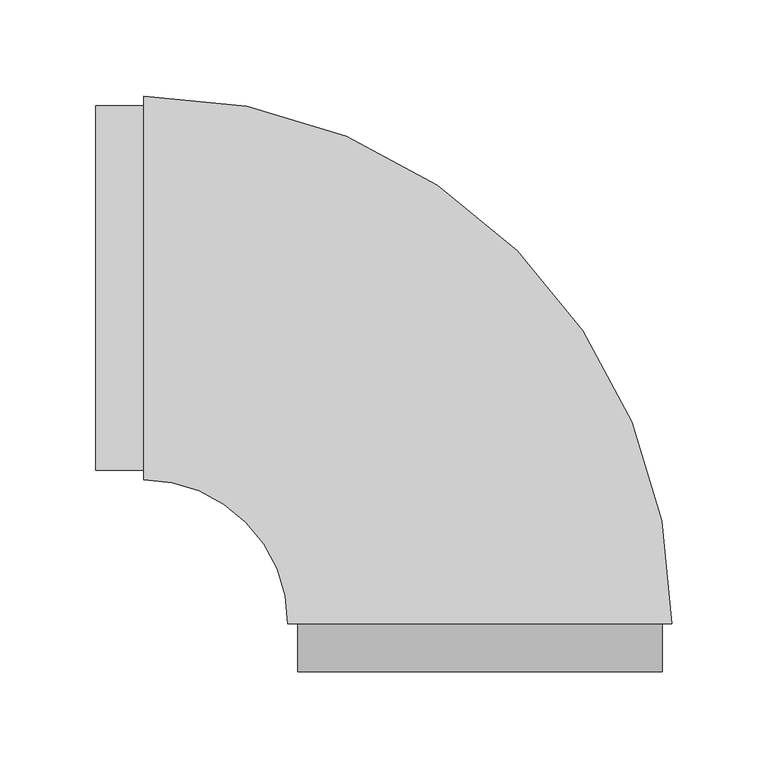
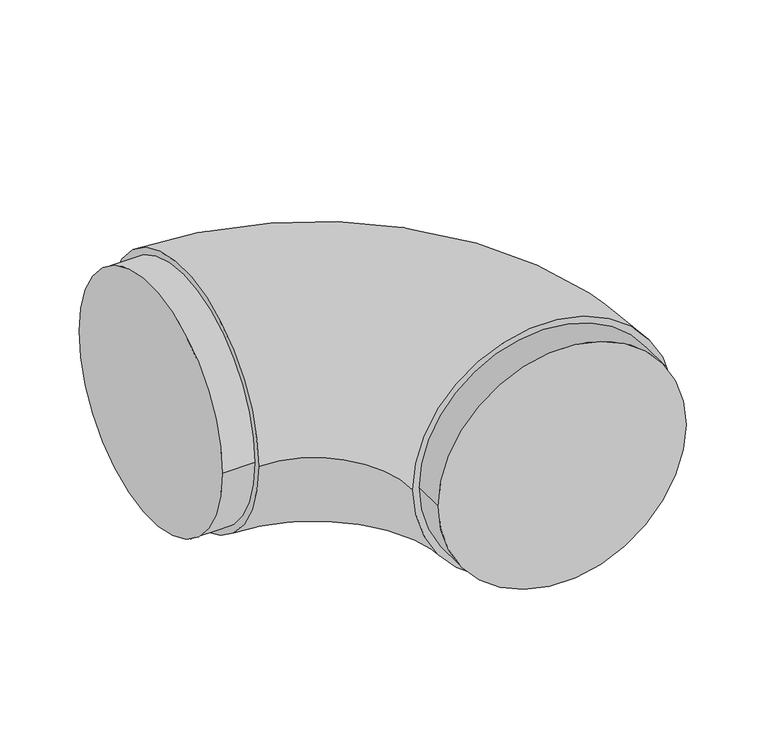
"""IFC4 building model written with IfcOpenShell, lengths in millimetres: pipe fitting geometry, Codo 90º Soldadura a Tope SDR 11 BluePipe : Estándar."""

from ifc_helpers import new_model, si_unit, point, frame, origin, origin_2d, place, context, project, spatial, circle_curve, ellipse_curve, trimmed, segment, composite_curve, outline, extrude, source, transform, mapped, element, save
from ifc_brep_helpers import plane_surface, revolved_surface, advanced_brep


def pipe_fitting_2358b14d(model_context):
    return source(origin(), model_context, "Body", "SolidModel", [
        extrude(outline(composite_curve([segment(trimmed(circle_curve(origin_2d(), 95.0), [point((0.0, -95.0))], [point((0.0, 95.0))], False, "CARTESIAN"), True, "CONTINUOUS"), segment(trimmed(circle_curve(origin_2d(), 95.0), [point((0.0, 95.0))], [point((0.0, -95.0))], False, "CARTESIAN"), True, "CONTINUOUS")], self_intersect=False)), frame((0.0, -200.0, 0.0), z_axis=(0.0, 1.0, 0.0), x_axis=(0.0, 0.0, 1.0)), (0.0, 0.0, 1.0), 25.0),
        extrude(outline(composite_curve([segment(trimmed(circle_curve(origin_2d(), 95.0), [point((95.0, 0.0))], [point((-95.0, 0.0))], False, "CARTESIAN"), True, "CONTINUOUS"), segment(trimmed(circle_curve(origin_2d(), 95.0), [point((-95.0, 0.0))], [point((95.0, 0.0))], False, "CARTESIAN"), True, "CONTINUOUS")], self_intersect=False)), frame((-200.0, 0.0, 0.0), z_axis=(1.0, 0.0, 0.0), x_axis=(0.0, 1.0, 0.0)), (0.0, 0.0, 1.0), 25.0),
        advanced_brep(
        [(-175.0, 100.0, 0.0), (-175.0, -100.0, 0.0), (100.0, -175.0, 0.0), (-100.0, -175.0, 0.0)],
        [
            (0, 1, circle_curve(frame((-175.0, 0.0, 0.0), z_axis=(-1.0, 0.0, 0.0), x_axis=(0.0, -1.0, 0.0)), 100.0)),
            (1, 0, circle_curve(frame((-175.0, 0.0, 0.0), z_axis=(-1.0, 0.0, 0.0), x_axis=(0.0, -1.0, 0.0)), 100.0)),
            (2, 3, circle_curve(frame((0.0, -175.0, 0.0), z_axis=(0.0, -1.0, 0.0), x_axis=(-1.0, 0.0, 0.0)), 100.0)),
            (3, 2, circle_curve(frame((0.0, -175.0, 0.0), z_axis=(0.0, -1.0, 0.0), x_axis=(-1.0, 0.0, 0.0)), 100.0)),
            (2, 0, circle_curve(frame((-175.0, -175.0, 0.0), z_axis=(0.0, 0.0, 1.0), x_axis=(0.0, 1.0, 0.0)), 275.0)),
            (1, 3, circle_curve(frame((-175.0, -175.0, 0.0), z_axis=(0.0, 0.0, -1.0), x_axis=(0.0, 1.0, 0.0)), 75.0)),
        ],
        [
            plane_surface(frame((-175.0, 0.0, 0.0), z_axis=(-1.0, 0.0, 0.0), x_axis=(0.0, 0.0, 1.0))),
            plane_surface(frame((0.0, -175.0, 0.0), z_axis=(0.0, -1.0, 0.0), x_axis=(0.0, 0.0, 1.0))),
            revolved_surface(trimmed(ellipse_curve(frame((-175.0, 0.0, 0.0), z_axis=(1.0, 0.0, 0.0), x_axis=(0.0, -1.0, 0.0)), 100.0, 100.0), [point((-175.0, 100.0, 0.0))], [point((-175.0, -100.0, 0.0))], True, "CARTESIAN"), (-175.0, -175.0, 0.0), (0.0, 0.0, 1.0)),
            revolved_surface(trimmed(ellipse_curve(frame((-175.0, 0.0, 0.0), z_axis=(1.0, 0.0, 0.0), x_axis=(0.0, -1.0, 0.0)), 100.0, 100.0), [point((-175.0, -100.0, 0.0))], [point((-175.0, 100.0, 0.0))], True, "CARTESIAN"), (-175.0, -175.0, 0.0), (0.0, 0.0, 1.0)),
        ],
        [
            (0, [[1, 2]]),
            (1, [[3, 4]]),
            (2, [[-3, 5, -2, 6]]),
            (3, [[-4, -6, -1, -5]]),
        ],
    ),
    ])


if __name__ == "__main__":
    model = new_model("IFC4")
    model_context = context("Model", 3, world=origin())
    ifc_project = project(units=[si_unit("LENGTHUNIT", "METRE", prefix="MILLI")], contexts=[model_context])
    site = spatial("IfcSite", under=ifc_project)
    building = spatial("IfcBuilding", under=site)
    placement = place(None, origin())
    pipe_fitting_shape = pipe_fitting_2358b14d(model_context)
    element("IfcPipeFitting", 1, ObjectType="Codo 90º Soldadura a Tope SDR 11 BluePipe : Estándar", at=placement, inside=building, context=model_context, shape_type="MappedRepresentation", body=[
        mapped(pipe_fitting_shape, transform((0.0, 0.0, 0.0), x_axis=(1.0, 0.0, 0.0), y_axis=(0.0, 1.0, 0.0), z_axis=(0.0, 0.0, 1.0))),
    ])
    save(model, "model.ifc")
